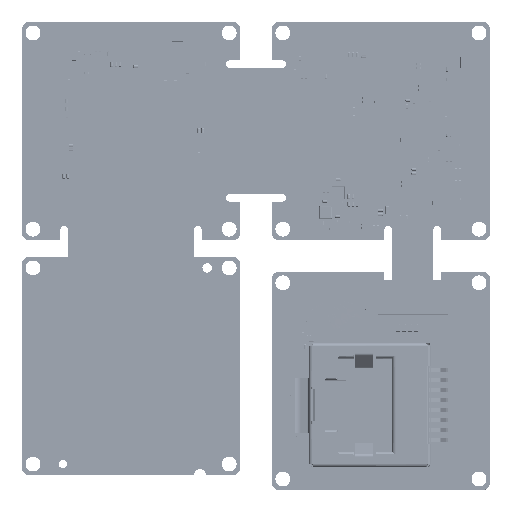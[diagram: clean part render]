
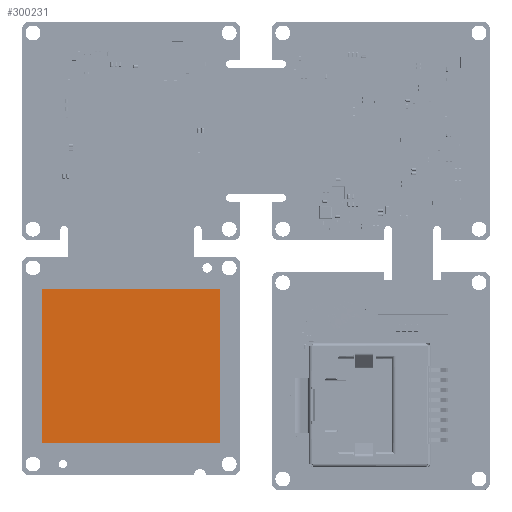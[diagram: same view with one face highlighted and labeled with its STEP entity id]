
A CAD part, top view. The second image highlights one B-rep face of the part: STEP entity #300231.
In plain terms, the highlighted planar face has unit normal (0, 0, 1).
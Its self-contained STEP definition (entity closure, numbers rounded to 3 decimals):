
#5532 = ORIENTED_EDGE ( 'NONE', *, *, #465392, .T. ) ;
#30845 = VECTOR ( 'NONE', #395272, 1000. ) ;
#49913 = LINE ( 'NONE', #79160, #284196 ) ;
#56945 = FACE_OUTER_BOUND ( 'NONE', #590252, .T. ) ;
#79160 = CARTESIAN_POINT ( 'NONE',  ( -11.3, -9.8, 1.935 ) ) ;
#87778 = DIRECTION ( 'NONE',  ( 1., 0., 0. ) ) ;
#95474 = CARTESIAN_POINT ( 'NONE',  ( -11.3, 9.8, 1.935 ) ) ;
#99301 = DIRECTION ( 'NONE',  ( 1., 0., 0. ) ) ;
#118496 = EDGE_CURVE ( 'NONE', #647003, #205578, #532528, .T. ) ;
#137050 = CARTESIAN_POINT ( 'NONE',  ( -11.3, 9.8, 1.935 ) ) ;
#138320 = VERTEX_POINT ( 'NONE', #242076 ) ;
#147848 = LINE ( 'NONE', #641811, #30845 ) ;
#186819 = CARTESIAN_POINT ( 'NONE',  ( 11.3, -9.8, 1.935 ) ) ;
#189879 = ORIENTED_EDGE ( 'NONE', *, *, #118496, .T. ) ;
#205578 = VERTEX_POINT ( 'NONE', #245294 ) ;
#242076 = CARTESIAN_POINT ( 'NONE',  ( -11.3, -9.8, 1.935 ) ) ;
#245294 = CARTESIAN_POINT ( 'NONE',  ( 11.3, 9.8, 1.935 ) ) ;
#247650 = DIRECTION ( 'NONE',  ( 0., 0., 1. ) ) ;
#272723 = VECTOR ( 'NONE', #300509, 1000. ) ;
#276587 = EDGE_CURVE ( 'NONE', #138320, #647003, #49913, .T. ) ;
#284196 = VECTOR ( 'NONE', #87778, 1000. ) ;
#300231 = ADVANCED_FACE ( 'NONE', ( #56945 ), #400358, .T. ) ;
#300509 = DIRECTION ( 'NONE',  ( -1., 0., 0. ) ) ;
#327358 = EDGE_CURVE ( 'NONE', #205578, #581938, #569335, .T. ) ;
#347049 = ORIENTED_EDGE ( 'NONE', *, *, #327358, .T. ) ;
#395272 = DIRECTION ( 'NONE',  ( 0., -1., 0. ) ) ;
#399739 = VECTOR ( 'NONE', #437632, 1000. ) ;
#400358 = PLANE ( 'NONE',  #586093 ) ;
#437632 = DIRECTION ( 'NONE',  ( 0., 1., 0. ) ) ;
#450557 = CARTESIAN_POINT ( 'NONE',  ( 0., 0., 1.935 ) ) ;
#465392 = EDGE_CURVE ( 'NONE', #581938, #138320, #147848, .T. ) ;
#532528 = LINE ( 'NONE', #186819, #399739 ) ;
#547276 = ORIENTED_EDGE ( 'NONE', *, *, #276587, .T. ) ;
#569335 = LINE ( 'NONE', #137050, #272723 ) ;
#580202 = CARTESIAN_POINT ( 'NONE',  ( 11.3, -9.8, 1.935 ) ) ;
#581938 = VERTEX_POINT ( 'NONE', #95474 ) ;
#586093 = AXIS2_PLACEMENT_3D ( 'NONE', #450557, #247650, #99301 ) ;
#590252 = EDGE_LOOP ( 'NONE', ( #547276, #189879, #347049, #5532 ) ) ;
#641811 = CARTESIAN_POINT ( 'NONE',  ( -11.3, -9.8, 1.935 ) ) ;
#647003 = VERTEX_POINT ( 'NONE', #580202 ) ;
